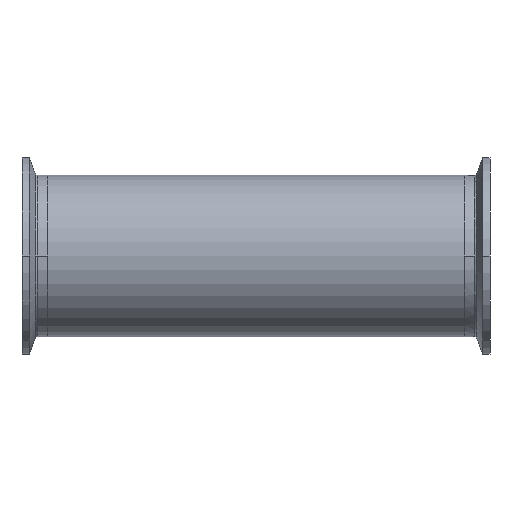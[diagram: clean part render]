
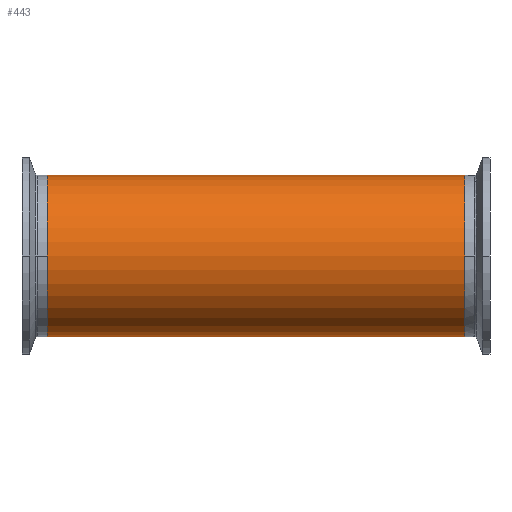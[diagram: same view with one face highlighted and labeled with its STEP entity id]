
A CAD part, front view. The second image highlights one B-rep face of the part: STEP entity #443.
In plain terms, the highlighted cylindrical face has radius 31.75 mm (diameter 63.5 mm), a partial arc.
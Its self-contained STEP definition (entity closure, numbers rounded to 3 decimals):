
#41 = CARTESIAN_POINT ( 'NONE',  ( 82.1, 0., 31.75 ) ) ;
#84 = AXIS2_PLACEMENT_3D ( 'NONE', #452, #2735, #785 ) ;
#235 = CIRCLE ( 'NONE', #2292, 31.75 ) ;
#319 = DIRECTION ( 'NONE',  ( -1., 0., 0. ) ) ;
#344 = CARTESIAN_POINT ( 'NONE',  ( 171.903, 0., 31.75 ) ) ;
#443 = ADVANCED_FACE ( 'NONE', ( #541 ), #2196, .T. ) ;
#452 = CARTESIAN_POINT ( 'NONE',  ( 82.1, 0., 0. ) ) ;
#535 = DIRECTION ( 'NONE',  ( -1., 0., 0. ) ) ;
#541 = FACE_OUTER_BOUND ( 'NONE', #1907, .T. ) ;
#633 = DIRECTION ( 'NONE',  ( 0., 0., 1. ) ) ;
#647 = DIRECTION ( 'NONE',  ( 1., 0., 0. ) ) ;
#678 = VECTOR ( 'NONE', #319, 1000. ) ;
#692 = CARTESIAN_POINT ( 'NONE',  ( -82.1, 0., 0. ) ) ;
#785 = DIRECTION ( 'NONE',  ( 0., 0., 1. ) ) ;
#884 = EDGE_CURVE ( 'NONE', #3916, #3817, #235, .T. ) ;
#1331 = VECTOR ( 'NONE', #535, 1000. ) ;
#1431 = LINE ( 'NONE', #3140, #1331 ) ;
#1499 = ORIENTED_EDGE ( 'NONE', *, *, #3093, .T. ) ;
#1907 = EDGE_LOOP ( 'NONE', ( #3651, #1499, #2627, #2410 ) ) ;
#2086 = VERTEX_POINT ( 'NONE', #41 ) ;
#2185 = CARTESIAN_POINT ( 'NONE',  ( 171.903, 0., 0. ) ) ;
#2196 = CYLINDRICAL_SURFACE ( 'NONE', #3311, 31.75 ) ;
#2209 = DIRECTION ( 'NONE',  ( 0., 0., 1. ) ) ;
#2292 = AXIS2_PLACEMENT_3D ( 'NONE', #692, #647, #633 ) ;
#2410 = ORIENTED_EDGE ( 'NONE', *, *, #884, .T. ) ;
#2482 = DIRECTION ( 'NONE',  ( -1., 0., 0. ) ) ;
#2568 = CIRCLE ( 'NONE', #84, 31.75 ) ;
#2627 = ORIENTED_EDGE ( 'NONE', *, *, #2769, .T. ) ;
#2735 = DIRECTION ( 'NONE',  ( -1., 0., 0. ) ) ;
#2769 = EDGE_CURVE ( 'NONE', #2086, #3916, #3270, .T. ) ;
#2993 = CARTESIAN_POINT ( 'NONE',  ( -82.1, 0., -31.75 ) ) ;
#3014 = VERTEX_POINT ( 'NONE', #3340 ) ;
#3093 = EDGE_CURVE ( 'NONE', #3014, #2086, #2568, .T. ) ;
#3140 = CARTESIAN_POINT ( 'NONE',  ( 171.903, 0., -31.75 ) ) ;
#3270 = LINE ( 'NONE', #344, #678 ) ;
#3311 = AXIS2_PLACEMENT_3D ( 'NONE', #2185, #2482, #2209 ) ;
#3340 = CARTESIAN_POINT ( 'NONE',  ( 82.1, 0., -31.75 ) ) ;
#3651 = ORIENTED_EDGE ( 'NONE', *, *, #4065, .F. ) ;
#3817 = VERTEX_POINT ( 'NONE', #2993 ) ;
#3916 = VERTEX_POINT ( 'NONE', #3979 ) ;
#3979 = CARTESIAN_POINT ( 'NONE',  ( -82.1, 0., 31.75 ) ) ;
#4065 = EDGE_CURVE ( 'NONE', #3014, #3817, #1431, .T. ) ;
